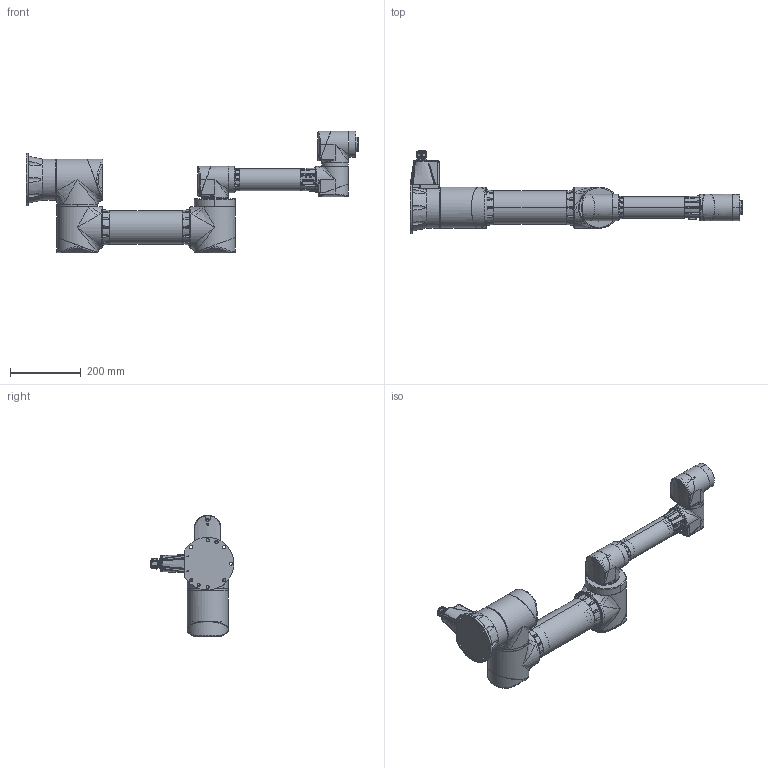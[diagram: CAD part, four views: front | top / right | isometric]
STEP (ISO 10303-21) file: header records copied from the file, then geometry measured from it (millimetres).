
FILE_DESCRIPTION((''),'2;1');
FILE_NAME('ZRA_0507N_ASM','2022-10-12T16:34:43',('SonJeongWon'),(''),'CREO PARAMETRIC BY PTC INC, 2020354','CREO PARAMETRIC BY PTC INC, 2020354','');
FILE_SCHEMA(('CONFIG_CONTROL_DESIGN'));
Products named in the file (25): FLANGE_B; HOLDER_M; COVER_M; MODULE_M_ASM; RING_M; ARM1_PIPE; FLANGE_ARM1; ARM1_ASM; FLANGE_J3; HOLDER_S; COVER_S; MODULE_S_ASM; PIPE2; FLANGE_J4; FLANGE_J5; PLATE; PORT; ARM2_ASM; FLANGE_E; RING_S; COVER_J; CABLE; PLATE_J; COVER_J_ASM; ZRA_0507N_ASM
Assembly tree (29 placements, depth 3):
  ZRA_0507N_ASM
    FLANGE_B
    MODULE_M_ASM  x3
      HOLDER_M
      COVER_M
    RING_M
    ARM1_ASM
      ARM1_PIPE
      FLANGE_ARM1  x2
    FLANGE_J3
    MODULE_S_ASM  x3
      HOLDER_S
      COVER_S
    ARM2_ASM
      PIPE2
      FLANGE_J4
      FLANGE_J5
      PLATE
      PORT
    FLANGE_E
    RING_S
    COVER_J_ASM
      COVER_J
      CABLE
      PLATE_J
Bounding box: 940.1 x 237.3 x 344.9 mm (x, y, z)
Volume: 11851650 mm3; surface area: 914255.6 mm2
Topology: 28 solids, 212 shells, 3861 faces, 10478 edges, 6914 vertices
Faces by surface type: cylinder 1409, plane 1297, bspline 650, torus 269, cone 210, sphere 18, extrusion 8
Entity records: 146255 total; most frequent: CARTESIAN_POINT 72340, ORIENTED_EDGE 16264, DIRECTION 13894, EDGE_CURVE 8266, VERTEX_POINT 5414, AXIS2_PLACEMENT_3D 5218, VECTOR 3458, LINE 3450
